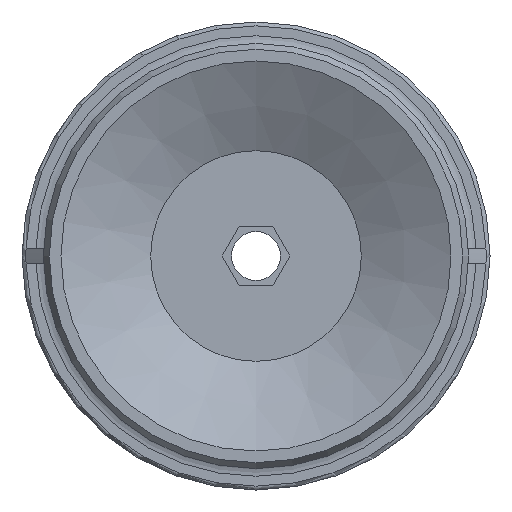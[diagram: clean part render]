
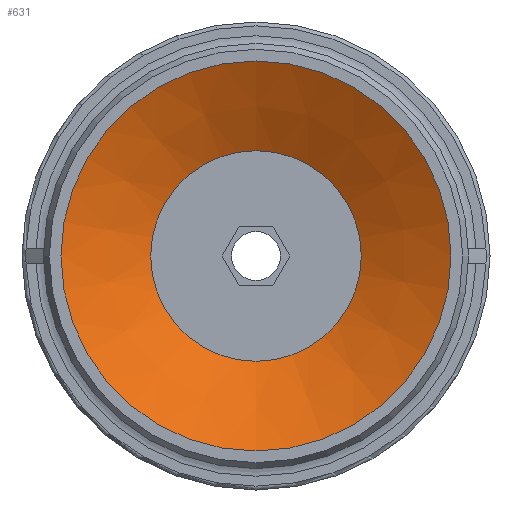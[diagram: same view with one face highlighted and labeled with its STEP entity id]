
A CAD part, front view. The second image highlights one B-rep face of the part: STEP entity #631.
In plain terms, the highlighted conical face has half-angle 61.631 degrees and reference radius 5.4 mm.
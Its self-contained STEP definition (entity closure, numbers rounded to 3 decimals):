
#631=ADVANCED_FACE('',(#970,#971),#972,.F.);
#970=FACE_BOUND('',#1397,.T.);
#971=FACE_OUTER_BOUND('',#1398,.T.);
#972=CONICAL_SURFACE('',#1399,5.4,1.076);
#1397=EDGE_LOOP('',(#2574));
#1398=EDGE_LOOP('',(#2575));
#1399=AXIS2_PLACEMENT_3D('',#2576,#2577,#2578);
#2574=ORIENTED_EDGE('',*,*,#3150,.F.);
#2575=ORIENTED_EDGE('',*,*,#3172,.T.);
#2576=CARTESIAN_POINT('',(0.0,2.484,0.0));
#2577=DIRECTION('',(-0.0,-1.0,0.));
#2578=DIRECTION('',(0.0,0.,-1.0));
#3150=EDGE_CURVE('',#3631,#3631,#3632,.T.);
#3172=EDGE_CURVE('',#3665,#3665,#3666,.T.);
#3631=VERTEX_POINT('',#4613);
#3632=CIRCLE('',#4614,5.4);
#3665=VERTEX_POINT('',#4659);
#3666=CIRCLE('',#4660,10.0);
#4613=CARTESIAN_POINT('',(0.0,2.484,-5.4));
#4614=AXIS2_PLACEMENT_3D('',#5459,#5460,#5461);
#4659=CARTESIAN_POINT('',(0.0,0.,-10.0));
#4660=AXIS2_PLACEMENT_3D('',#5501,#5502,#5503);
#5459=CARTESIAN_POINT('',(0.0,2.484,0.0));
#5460=DIRECTION('',(0.0,-1.0,0.));
#5461=DIRECTION('',(0.0,0.,-1.0));
#5501=CARTESIAN_POINT('',(0.0,0.0,0.0));
#5502=DIRECTION('',(0.0,-1.0,0.));
#5503=DIRECTION('',(0.0,0.,-1.0));
